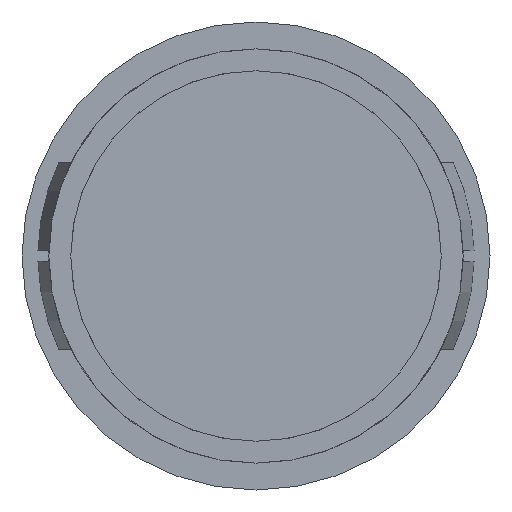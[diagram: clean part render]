
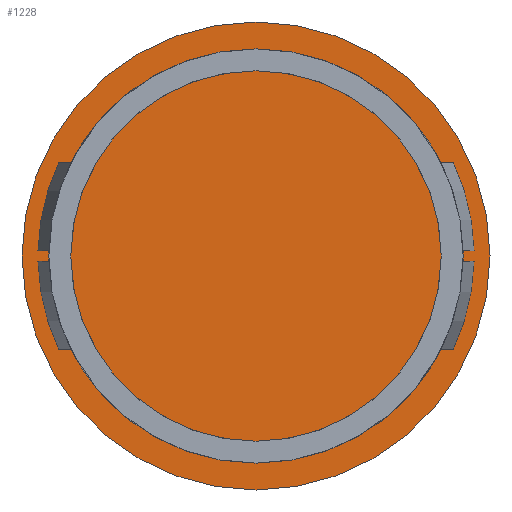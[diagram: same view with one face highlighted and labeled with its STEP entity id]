
A CAD part, front view. The second image highlights one B-rep face of the part: STEP entity #1228.
In plain terms, the highlighted planar face has unit normal (0, -1, 0).
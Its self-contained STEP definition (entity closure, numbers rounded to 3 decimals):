
#35 = EDGE_LOOP ( 'NONE', ( #1170, #1116, #1039, #891, #132, #130 ) ) ;
#47 = EDGE_CURVE ( 'NONE', #86, #51, #1563, .T. ) ;
#51 = VERTEX_POINT ( 'NONE', #1573 ) ;
#52 = EDGE_CURVE ( 'NONE', #113, #1225, #1618, .T. ) ;
#76 = ORIENTED_EDGE ( 'NONE', *, *, #52, .T. ) ;
#80 = VERTEX_POINT ( 'NONE', #222 ) ;
#86 = VERTEX_POINT ( 'NONE', #279 ) ;
#113 = VERTEX_POINT ( 'NONE', #474 ) ;
#116 = LINE ( 'NONE', #117, #118 ) ;
#117 = CARTESIAN_POINT ( 'NONE',  ( -21.35, 9.9, -10.5 ) ) ;
#118 = VECTOR ( 'NONE', #119, 1000. ) ;
#119 = DIRECTION ( 'NONE',  ( 1., 0., 0. ) ) ;
#125 = LINE ( 'NONE', #126, #127 ) ;
#126 = CARTESIAN_POINT ( 'NONE',  ( -21.35, 9.9, 10.5 ) ) ;
#127 = VECTOR ( 'NONE', #128, 1000. ) ;
#128 = DIRECTION ( 'NONE',  ( 1., 0., 0. ) ) ;
#130 = ORIENTED_EDGE ( 'NONE', *, *, #942, .F. ) ;
#132 = ORIENTED_EDGE ( 'NONE', *, *, #1174, .F. ) ;
#182 = CIRCLE ( 'NONE', #183, 16.9 ) ;
#183 = AXIS2_PLACEMENT_3D ( 'NONE', #184, #185, #186 ) ;
#184 = CARTESIAN_POINT ( 'NONE',  ( 0., 9.9, 0. ) ) ;
#185 = DIRECTION ( 'NONE',  ( 0., 1., 0. ) ) ;
#186 = DIRECTION ( 'NONE',  ( 0., 0., -1. ) ) ;
#221 = CARTESIAN_POINT ( 'NONE',  ( 0., 9.9, 21.35 ) ) ;
#222 = CARTESIAN_POINT ( 'NONE',  ( 0., 9.9, -18.9 ) ) ;
#274 = CIRCLE ( 'NONE', #275, 21.35 ) ;
#275 = AXIS2_PLACEMENT_3D ( 'NONE', #276, #277, #278 ) ;
#276 = CARTESIAN_POINT ( 'NONE',  ( 0., 9.9, 0. ) ) ;
#277 = DIRECTION ( 'NONE',  ( 0., 1., 0. ) ) ;
#278 = DIRECTION ( 'NONE',  ( 0., 0., 1. ) ) ;
#279 = CARTESIAN_POINT ( 'NONE',  ( -15.715, 9.9, 10.5 ) ) ;
#303 = EDGE_CURVE ( 'NONE', #1225, #80, #579, .T. ) ;
#338 = EDGE_CURVE ( 'NONE', #113, #1191, #602, .T. ) ;
#348 = CARTESIAN_POINT ( 'NONE',  ( 0., 9.9, 16.9 ) ) ;
#429 = CARTESIAN_POINT ( 'NONE',  ( 15.715, 9.9, 10.5 ) ) ;
#461 = CARTESIAN_POINT ( 'NONE',  ( -13.242, 9.9, 10.5 ) ) ;
#474 = CARTESIAN_POINT ( 'NONE',  ( 13.242, 9.9, -10.5 ) ) ;
#527 = CIRCLE ( 'NONE', #528, 18.9 ) ;
#528 = AXIS2_PLACEMENT_3D ( 'NONE', #529, #530, #531 ) ;
#529 = CARTESIAN_POINT ( 'NONE',  ( 0., 9.9, 0. ) ) ;
#530 = DIRECTION ( 'NONE',  ( 0., 1., 0. ) ) ;
#531 = DIRECTION ( 'NONE',  ( 0., 0., 1. ) ) ;
#579 = CIRCLE ( 'NONE', #580, 18.9 ) ;
#580 = AXIS2_PLACEMENT_3D ( 'NONE', #581, #582, #583 ) ;
#581 = CARTESIAN_POINT ( 'NONE',  ( 0., 9.9, 0. ) ) ;
#582 = DIRECTION ( 'NONE',  ( 0., 1., 0. ) ) ;
#583 = DIRECTION ( 'NONE',  ( 0., 0., 1. ) ) ;
#602 = CIRCLE ( 'NONE', #603, 16.9 ) ;
#603 = AXIS2_PLACEMENT_3D ( 'NONE', #604, #605, #606 ) ;
#604 = CARTESIAN_POINT ( 'NONE',  ( 0., 9.9, 0. ) ) ;
#605 = DIRECTION ( 'NONE',  ( 0., 1., 0. ) ) ;
#606 = DIRECTION ( 'NONE',  ( 0., 0., -1. ) ) ;
#608 = ORIENTED_EDGE ( 'NONE', *, *, #1187, .F. ) ;
#644 = EDGE_CURVE ( 'NONE', #1045, #963, #734, .T. ) ;
#704 = ORIENTED_EDGE ( 'NONE', *, *, #338, .F. ) ;
#734 = CIRCLE ( 'NONE', #735, 16.9 ) ;
#735 = AXIS2_PLACEMENT_3D ( 'NONE', #736, #737, #738 ) ;
#736 = CARTESIAN_POINT ( 'NONE',  ( 0., 9.9, 0. ) ) ;
#737 = DIRECTION ( 'NONE',  ( 0., 1., 0. ) ) ;
#738 = DIRECTION ( 'NONE',  ( 0., 0., -1. ) ) ;
#891 = ORIENTED_EDGE ( 'NONE', *, *, #644, .F. ) ;
#898 = VERTEX_POINT ( 'NONE', #1356 ) ;
#904 = EDGE_LOOP ( 'NONE', ( #608, #1703 ) ) ;
#918 = ORIENTED_EDGE ( 'NONE', *, *, #1238, .F. ) ;
#941 = EDGE_CURVE ( 'NONE', #80, #1198, #1530, .T. ) ;
#942 = EDGE_CURVE ( 'NONE', #86, #1082, #1535, .T. ) ;
#963 = VERTEX_POINT ( 'NONE', #1606 ) ;
#978 = VERTEX_POINT ( 'NONE', #1679 ) ;
#988 = EDGE_CURVE ( 'NONE', #1198, #898, #116, .T. ) ;
#992 = EDGE_CURVE ( 'NONE', #963, #1070, #125, .T. ) ;
#1038 = ORIENTED_EDGE ( 'NONE', *, *, #988, .T. ) ;
#1039 = ORIENTED_EDGE ( 'NONE', *, *, #992, .F. ) ;
#1045 = VERTEX_POINT ( 'NONE', #348 ) ;
#1070 = VERTEX_POINT ( 'NONE', #429 ) ;
#1082 = VERTEX_POINT ( 'NONE', #461 ) ;
#1099 = EDGE_CURVE ( 'NONE', #51, #1070, #527, .T. ) ;
#1109 = ORIENTED_EDGE ( 'NONE', *, *, #941, .T. ) ;
#1116 = ORIENTED_EDGE ( 'NONE', *, *, #1099, .T. ) ;
#1169 = VERTEX_POINT ( 'NONE', #221 ) ;
#1170 = ORIENTED_EDGE ( 'NONE', *, *, #47, .T. ) ;
#1174 = EDGE_CURVE ( 'NONE', #1082, #1045, #1251, .T. ) ;
#1182 = ORIENTED_EDGE ( 'NONE', *, *, #303, .T. ) ;
#1187 = EDGE_CURVE ( 'NONE', #1169, #978, #1345, .T. ) ;
#1191 = VERTEX_POINT ( 'NONE', #1358 ) ;
#1198 = VERTEX_POINT ( 'NONE', #1417 ) ;
#1212 = EDGE_LOOP ( 'NONE', ( #1182, #1109, #1038, #918, #704, #76 ) ) ;
#1225 = VERTEX_POINT ( 'NONE', #1660 ) ;
#1228 = ADVANCED_FACE ( 'NONE', ( #1690, #1691, #1692 ), #1693, .T. ) ;
#1238 = EDGE_CURVE ( 'NONE', #1191, #898, #182, .T. ) ;
#1251 = CIRCLE ( 'NONE', #1252, 16.9 ) ;
#1252 = AXIS2_PLACEMENT_3D ( 'NONE', #1253, #1254, #1255 ) ;
#1253 = CARTESIAN_POINT ( 'NONE',  ( 0., 9.9, 0. ) ) ;
#1254 = DIRECTION ( 'NONE',  ( 0., 1., 0. ) ) ;
#1255 = DIRECTION ( 'NONE',  ( 0., 0., -1. ) ) ;
#1345 = CIRCLE ( 'NONE', #1347, 21.35 ) ;
#1347 = AXIS2_PLACEMENT_3D ( 'NONE', #1348, #1349, #1350 ) ;
#1348 = CARTESIAN_POINT ( 'NONE',  ( 0., 9.9, 0. ) ) ;
#1349 = DIRECTION ( 'NONE',  ( 0., 1., 0. ) ) ;
#1350 = DIRECTION ( 'NONE',  ( 0., 0., 1. ) ) ;
#1356 = CARTESIAN_POINT ( 'NONE',  ( -13.242, 9.9, -10.5 ) ) ;
#1358 = CARTESIAN_POINT ( 'NONE',  ( 0., 9.9, -16.9 ) ) ;
#1363 = EDGE_CURVE ( 'NONE', #978, #1169, #274, .T. ) ;
#1417 = CARTESIAN_POINT ( 'NONE',  ( -15.715, 9.9, -10.5 ) ) ;
#1530 = CIRCLE ( 'NONE', #1531, 18.9 ) ;
#1531 = AXIS2_PLACEMENT_3D ( 'NONE', #1532, #1533, #1534 ) ;
#1532 = CARTESIAN_POINT ( 'NONE',  ( 0., 9.9, 0. ) ) ;
#1533 = DIRECTION ( 'NONE',  ( 0., 1., 0. ) ) ;
#1534 = DIRECTION ( 'NONE',  ( 0., 0., 1. ) ) ;
#1535 = LINE ( 'NONE', #1536, #1537 ) ;
#1536 = CARTESIAN_POINT ( 'NONE',  ( -21.35, 9.9, 10.5 ) ) ;
#1537 = VECTOR ( 'NONE', #1538, 1000. ) ;
#1538 = DIRECTION ( 'NONE',  ( 1., 0., 0. ) ) ;
#1563 = CIRCLE ( 'NONE', #1564, 18.9 ) ;
#1564 = AXIS2_PLACEMENT_3D ( 'NONE', #1565, #1566, #1567 ) ;
#1565 = CARTESIAN_POINT ( 'NONE',  ( 0., 9.9, 0. ) ) ;
#1566 = DIRECTION ( 'NONE',  ( 0., 1., 0. ) ) ;
#1567 = DIRECTION ( 'NONE',  ( 0., 0., 1. ) ) ;
#1573 = CARTESIAN_POINT ( 'NONE',  ( 0., 9.9, 18.9 ) ) ;
#1606 = CARTESIAN_POINT ( 'NONE',  ( 13.242, 9.9, 10.5 ) ) ;
#1618 = LINE ( 'NONE', #1619, #1620 ) ;
#1619 = CARTESIAN_POINT ( 'NONE',  ( -21.35, 9.9, -10.5 ) ) ;
#1620 = VECTOR ( 'NONE', #1621, 1000. ) ;
#1621 = DIRECTION ( 'NONE',  ( 1., 0., 0. ) ) ;
#1660 = CARTESIAN_POINT ( 'NONE',  ( 15.715, 9.9, -10.5 ) ) ;
#1679 = CARTESIAN_POINT ( 'NONE',  ( 0., 9.9, -21.35 ) ) ;
#1690 = FACE_BOUND ( 'NONE', #1212, .T. ) ;
#1691 = FACE_BOUND ( 'NONE', #35, .T. ) ;
#1692 = FACE_OUTER_BOUND ( 'NONE', #904, .T. ) ;
#1693 = PLANE ( 'NONE',  #1694 ) ;
#1694 = AXIS2_PLACEMENT_3D ( 'NONE', #1695, #1696, #1697 ) ;
#1695 = CARTESIAN_POINT ( 'NONE',  ( -21.35, 9.9, 0. ) ) ;
#1696 = DIRECTION ( 'NONE',  ( 0., -1., 0. ) ) ;
#1697 = DIRECTION ( 'NONE',  ( 0., 0., -1. ) ) ;
#1703 = ORIENTED_EDGE ( 'NONE', *, *, #1363, .F. ) ;
